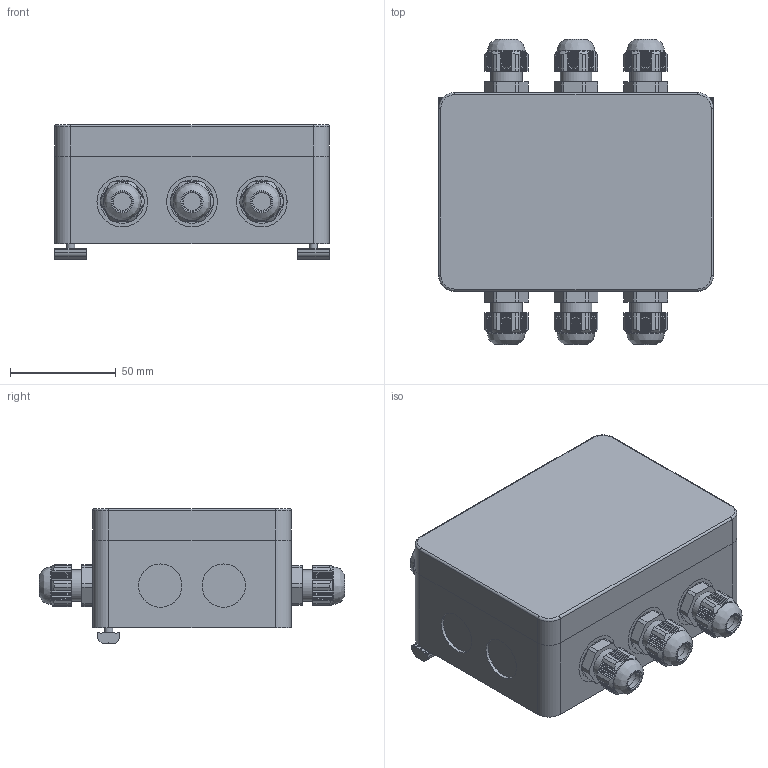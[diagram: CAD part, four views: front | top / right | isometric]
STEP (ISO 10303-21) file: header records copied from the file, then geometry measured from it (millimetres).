
FILE_DESCRIPTION(/* description */ ('STEP AP203'),/* implementation_level */ '2;1');
FILE_NAME(/* name */ 'J:\_TEMP - INPUT - Daten Austausch\CADs\Test-Downloads\GR04.308.stp',/* time_stamp */ '2017-02-01T14:35:28+01:00',/* author */ ('Stefano'),/* organization */ ('Gimatic'),/* preprocessor_version */ 'ST-DEVELOPER v16.5',/* originating_system */ 'Autodesk Inventor 2017',/* authorisation */ '');
FILE_SCHEMA (('AUTOMOTIVE_DESIGN { 1 0 10303 214 3 1 1 }'));
Length unit declared in the file: millimetre
Products named in the file (7): GR04.308_TOP; MB42; SB8C-02; SB8C-01; MFI-177; PG9; VITE-286_Semplice
Assembly tree (13 placements, depth 3):
  GR04.308_TOP
    PG9  x6
    VITE-286_Semplice  x2
    MB42
      SB8C-02
      SB8C-01
    MFI-177  x2
Bounding box: 130 x 144.4 x 63.9 mm (x, y, z)
Volume: 241033.1 mm3; surface area: 125195.6 mm2
Topology: 12 solids, 12 shells, 1026 faces, 2792 edges, 1852 vertices
Faces by surface type: plane 774, cylinder 220, cone 14, torus 12, bspline 6
Full cylindrical faces by diameter (mm): 3.3 x2, 4 x10, 5 x4, 5.5 x4, 7 x2, 8 x8, 8.4 x6, 10 x6, 14 x4, 15 x12, 17.8 x6, 20.5 x10, 24 x6
Entity records: 9592 total; most frequent: CARTESIAN_POINT 1901, DIRECTION 1570, ORIENTED_EDGE 1478, EDGE_CURVE 739, AXIS2_PLACEMENT_3D 585, VERTEX_POINT 522, EDGE_LOOP 425, LINE 400
